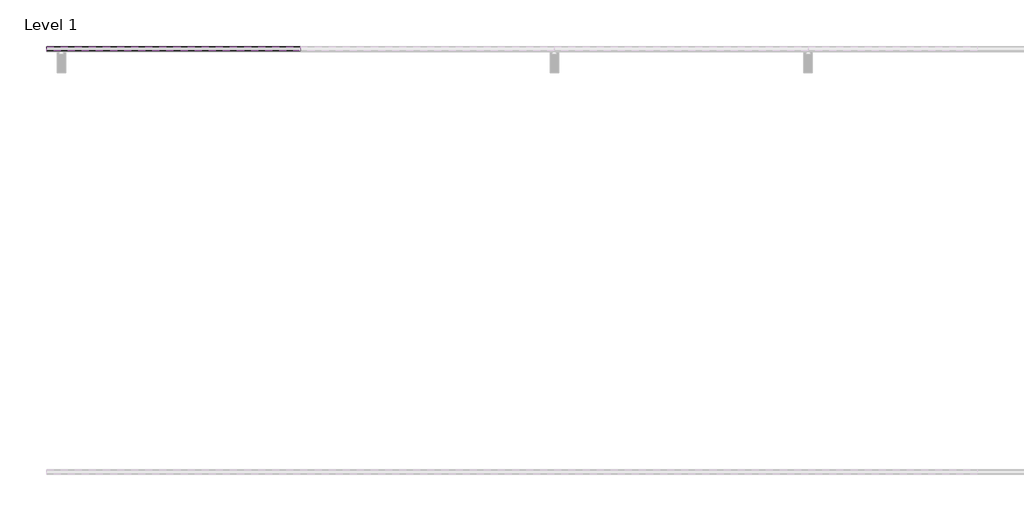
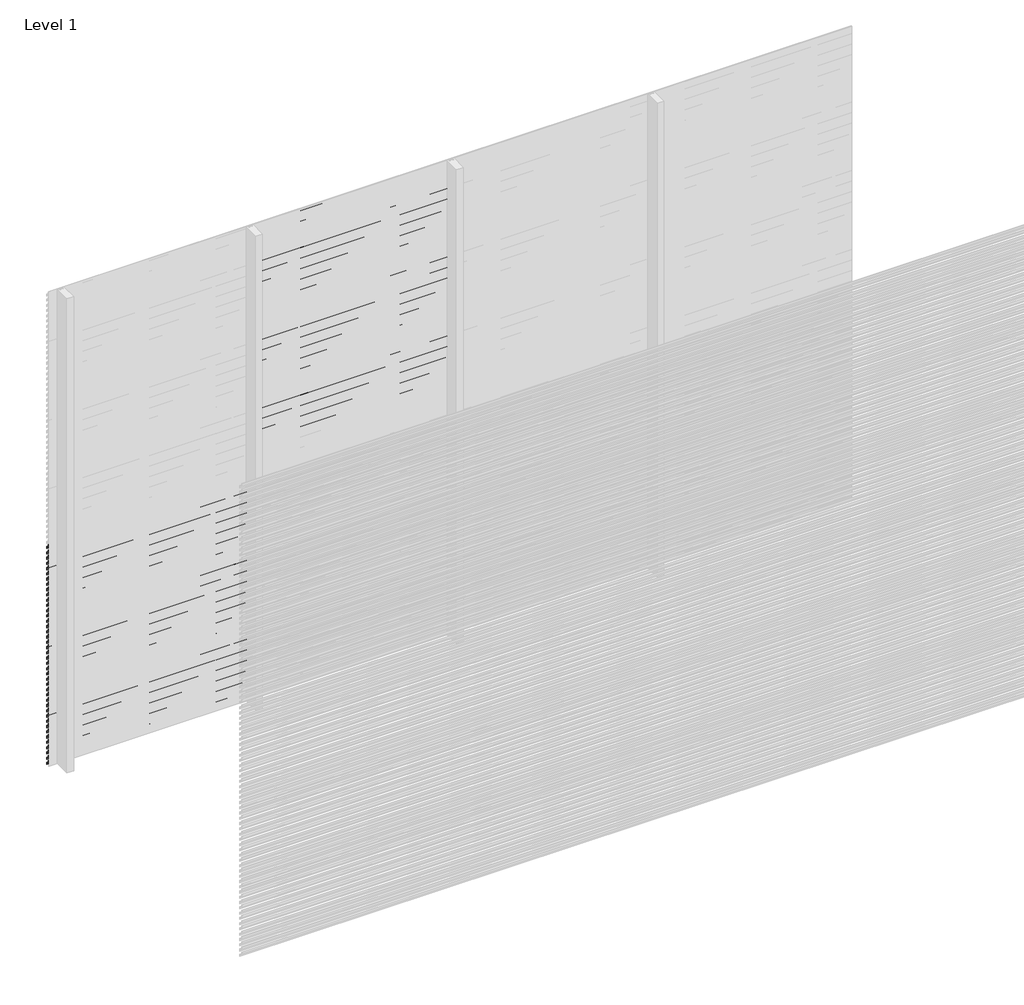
# One storey, part 36 of 507: 84 proxies.
"""IFC4 building model written with IfcOpenShell, lengths in millimetres."""

import ifcopenshell
import ifcopenshell.guid

model = None  # the IFC model being written
_history = None  # IfcOwnerHistory: only IFC2X3 demands one
_inside = {}  # id of a spatial element -> (the spatial element, [elements in it])
_under = {}  # id of a project, library or spatial element -> (it, [spatial elements below it])
_declared = {}  # id of a project -> (the project, [libraries it declares])
_typed = {}  # id of a type object -> (the type object, [elements of that type])
_made_of = {}  # id of a material, layer set ... -> (it, [elements and type objects made of it])


def new_model(schema):
    """Start an empty IFC model of exactly this schema.

    Asked for "IFC4X3", IfcOpenShell would pick the latest addendum, in which some entities
    have other attributes; the version numbers below select the first issue.
    IFC2X3 requires an IfcOwnerHistory on every rooted entity: one is made here for all.
    """
    global model, _history
    if schema == "IFC4X3":
        model = ifcopenshell.file(schema_version=(4, 3, 0, 0))
    else:
        model = ifcopenshell.file(schema=schema)
    _inside.clear()
    _under.clear()
    _declared.clear()
    _typed.clear()
    _made_of.clear()
    _history = None
    if model.schema == "IFC2X3":
        org = make("IfcOrganization", Name="unknown")
        user = make(
            "IfcPersonAndOrganization",
            ThePerson=make("IfcPerson", FamilyName="unknown"),
            TheOrganization=org,
        )
        app = make(
            "IfcApplication",
            ApplicationDeveloper=org,
            Version="unknown",
            ApplicationFullName="unknown",
            ApplicationIdentifier="unknown",
        )
        _history = make(
            "IfcOwnerHistory",
            OwningUser=user,
            OwningApplication=app,
            ChangeAction="ADDED",
            CreationDate=0,
        )
    return model


def make(cls, **values):
    """One entity of the class cls with the attributes given. An attribute that is None is left unset."""
    return model.create_entity(
        cls, **{name: value for name, value in values.items() if value is not None}
    )


def rooted(cls, **values):
    """An entity with a GlobalId (a new one), such as an element, a storey or a relation."""
    return make(cls, GlobalId=ifcopenshell.guid.new(), OwnerHistory=_history, **values)


def si_unit(unit_type, name, prefix=None):
    """IfcSIUnit, for example si_unit("LENGTHUNIT", "METRE", prefix="MILLI")."""
    return make("IfcSIUnit", UnitType=unit_type, Prefix=prefix, Name=name)


def assignment(units):
    """IfcUnitAssignment: the units of a project."""
    return None if units is None else make("IfcUnitAssignment", Units=units)


def point(xyz):
    """IfcCartesianPoint."""
    return None if xyz is None else make("IfcCartesianPoint", Coordinates=xyz)


def direction(xyz):
    """IfcDirection."""
    return None if xyz is None else make("IfcDirection", DirectionRatios=xyz)


def frame(location, z_axis=None, x_axis=None):
    """IfcAxis2Placement3D, a coordinate frame: its origin and axes. An axis left out is left unset."""
    return make(
        "IfcAxis2Placement3D",
        Location=point(location),
        Axis=direction(z_axis),
        RefDirection=direction(x_axis),
    )


def origin():
    """The frame at (0, 0, 0) with its axes left unset."""
    return frame((0.0, 0.0, 0.0))


def place(relative_to, where):
    """IfcLocalPlacement: puts the frame where relative to a parent placement (None: the world)."""
    return make(
        "IfcLocalPlacement", PlacementRelTo=relative_to, RelativePlacement=where
    )


def context(
    kind, dimensions, precision=None, world=None, true_north=None, identifier=None
):
    """IfcGeometricRepresentationContext, for example the 3D "Model" context."""
    return make(
        "IfcGeometricRepresentationContext",
        ContextIdentifier=identifier,
        ContextType=kind,
        CoordinateSpaceDimension=dimensions,
        Precision=precision,
        WorldCoordinateSystem=world,
        TrueNorth=true_north,
    )


def project(units=None, contexts=None):
    """IfcProject with its units and contexts."""
    return rooted(
        "IfcProject",
        Name="project",
        RepresentationContexts=contexts,
        UnitsInContext=assignment(units),
    )


def spatial(cls, under=None, at=None, **own):
    """A site, building, storey or space (cls), placed at a placement, below another one or the project."""
    s = rooted(cls, ObjectPlacement=at, **own)
    if under is not None:
        _under.setdefault(under.id(), (under, []))[1].append(s)
    return s


def polyline(points):
    """IfcPolyline through the points."""
    return make("IfcPolyline", Points=[point(p) for p in points])


def outline(outer, holes=None, kind="AREA"):
    """IfcArbitraryClosedProfileDef: a profile drawn as a closed curve; with holes, ...WithVoids."""
    if holes is None:
        return make("IfcArbitraryClosedProfileDef", ProfileType=kind, OuterCurve=outer)
    return make(
        "IfcArbitraryProfileDefWithVoids",
        ProfileType=kind,
        OuterCurve=outer,
        InnerCurves=holes,
    )


def extrude(swept, where, along, depth):
    """IfcExtrudedAreaSolid: the profile swept, set in the frame where, extruded along a direction by depth."""
    return make(
        "IfcExtrudedAreaSolid",
        SweptArea=swept,
        Position=where,
        ExtrudedDirection=direction(along),
        Depth=depth,
    )


def shape(context_of_items, identifier, shape_type, items):
    """IfcShapeRepresentation: the items that make up one representation, for example the "Body"."""
    return make(
        "IfcShapeRepresentation",
        ContextOfItems=context_of_items,
        RepresentationIdentifier=identifier,
        RepresentationType=shape_type,
        Items=items,
    )


def made_of(thing, what):
    """Note that an element or type object is made of a material, layer set ...; save() writes the relation."""
    if what is not None:
        _made_of.setdefault(what.id(), (what, []))[1].append(thing)
    return thing


def element(
    cls,
    number,
    at=None,
    inside=None,
    cuts=None,
    type_object=None,
    material=None,
    context=None,
    identifier="Body",
    shape_type=None,
    held_by="IfcProductDefinitionShape",
    body=None,
    shapes=None,
    **own,
):
    """One element of the class cls, such as IfcWall. Its Tag is "e" and its number.

    at: its placement. inside: the storey or other place that contains it. cuts: it is an
    opening in that element (IfcRelVoidsElement). A single representation is given by context,
    identifier, shape_type and body (its items); several are given by shapes. held_by: the class
    of the entity that holds the representations. save() writes the other relations.
    """
    e = rooted(cls, Tag="e%d" % number, ObjectPlacement=at, **own)
    if body is not None:
        shapes = [shape(context, identifier, shape_type, body)]
    if shapes is not None:
        e.Representation = make(held_by, Representations=shapes)
    if inside is not None:
        _inside.setdefault(inside.id(), (inside, []))[1].append(e)
    if cuts is not None:
        rooted(
            "IfcRelVoidsElement", RelatingBuildingElement=cuts, RelatedOpeningElement=e
        )
    if type_object is not None:
        _typed.setdefault(type_object.id(), (type_object, []))[1].append(e)
    return made_of(e, material)


def aggregate(whole, parts):
    """IfcRelAggregates: a whole, such as a stair, and the parts it consists of."""
    return rooted("IfcRelAggregates", RelatingObject=whole, RelatedObjects=parts)


def save(model, path):
    """Write the relations noted so far, then the file.

    IfcRelAggregates (storeys below a building ...), IfcRelContainedInSpatialStructure (elements
    in a storey), IfcRelDefinesByType, IfcRelAssociatesMaterial and IfcRelDeclares: one each for
    every whole, place, type object, material and project.
    """
    for whole, parts in _under.values():
        aggregate(whole, parts)
    for where, things in _inside.values():
        rooted(
            "IfcRelContainedInSpatialStructure",
            RelatedElements=things,
            RelatingStructure=where,
        )
    for kind, things in _typed.values():
        rooted("IfcRelDefinesByType", RelatedObjects=things, RelatingType=kind)
    for what, things in _made_of.values():
        rooted("IfcRelAssociatesMaterial", RelatedObjects=things, RelatingMaterial=what)
    for by, libraries in _declared.values():
        rooted("IfcRelDeclares", RelatingContext=by, RelatedDefinitions=libraries)
    model.write(path)


model = new_model("IFC4")

# Units and contexts
model_context = context("Model", 3, world=origin())
ifc_project = project(units=[si_unit("LENGTHUNIT", "METRE", prefix="MILLI")], contexts=[model_context])

# Site, building, storey
site = spatial("IfcSite", under=ifc_project)
building = spatial("IfcBuilding", under=site)
storey = spatial("IfcBuildingStorey", under=building, Name="Level 1", Elevation=0.0)

# Proxies
placement = place(None, origin())
element("IfcBuildingElementProxy", 1, Name="Wall Sweeps", at=placement, inside=storey, context=model_context, shape_type="SweptSolid", body=[
    extrude(outline(polyline([(29003.4540136, 1374.6), (29003.4540136, 1361.1), (29002.2040136, 1361.8216933), (29002.2040136, 1373.8782281), (28983.0540136, 1384.9345698), (28983.0540136, 1398.6), (28984.3040136, 1398.6), (28984.3040136, 1385.6562577), (29003.4540136, 1374.6)])), frame((44966.6208097, 0.0, 0.0), z_axis=(1.0, 0.0, 0.0), x_axis=(0.0, 1.0, 0.0)), (0.0, 0.0, 1.0), 1200.0000002),
])
element("IfcBuildingElementProxy", 2, Name="Wall Sweeps", at=placement, inside=storey, context=model_context, shape_type="SweptSolid", body=[
    extrude(outline(polyline([(29003.4540136, 1341.3), (29003.4540136, 1327.8), (29002.2040136, 1328.5216933), (29002.2040136, 1340.5782281), (28983.0540136, 1351.6345698), (28983.0540136, 1365.3), (28984.3040136, 1365.3), (28984.3040136, 1352.3562577), (29003.4540136, 1341.3)])), frame((44966.6208097, 0.0, 0.0), z_axis=(1.0, 0.0, 0.0), x_axis=(0.0, 1.0, 0.0)), (0.0, 0.0, 1.0), 1200.0000002),
])
element("IfcBuildingElementProxy", 3, Name="Wall Sweeps", at=placement, inside=storey, context=model_context, shape_type="SweptSolid", body=[
    extrude(outline(polyline([(29003.4540136, 1308.0), (29003.4540136, 1294.5), (29002.2040136, 1295.2216933), (29002.2040136, 1307.2782281), (28983.0540136, 1318.3345698), (28983.0540136, 1332.0), (28984.3040136, 1332.0), (28984.3040136, 1319.0562577), (29003.4540136, 1308.0)])), frame((44966.6208097, 0.0, 0.0), z_axis=(1.0, 0.0, 0.0), x_axis=(0.0, 1.0, 0.0)), (0.0, 0.0, 1.0), 1200.0000002),
])
element("IfcBuildingElementProxy", 4, Name="Wall Sweeps", at=placement, inside=storey, context=model_context, shape_type="SweptSolid", body=[
    extrude(outline(polyline([(29003.4540136, 1274.7), (29003.4540136, 1261.2), (29002.2040136, 1261.9216933), (29002.2040136, 1273.9782281), (28983.0540136, 1285.0345698), (28983.0540136, 1298.7), (28984.3040136, 1298.7), (28984.3040136, 1285.7562577), (29003.4540136, 1274.7)])), frame((44966.6208097, 0.0, 0.0), z_axis=(1.0, 0.0, 0.0), x_axis=(0.0, 1.0, 0.0)), (0.0, 0.0, 1.0), 1200.0000002),
])
element("IfcBuildingElementProxy", 5, Name="Wall Sweeps", at=placement, inside=storey, context=model_context, shape_type="SweptSolid", body=[
    extrude(outline(polyline([(29003.4540136, 1241.4), (29003.4540136, 1227.9), (29002.2040136, 1228.6216933), (29002.2040136, 1240.6782281), (28983.0540136, 1251.7345698), (28983.0540136, 1265.4), (28984.3040136, 1265.4), (28984.3040136, 1252.4562577), (29003.4540136, 1241.4)])), frame((44966.6208097, 0.0, 0.0), z_axis=(1.0, 0.0, 0.0), x_axis=(0.0, 1.0, 0.0)), (0.0, 0.0, 1.0), 1200.0000002),
])
element("IfcBuildingElementProxy", 6, Name="Wall Sweeps", at=placement, inside=storey, context=model_context, shape_type="SweptSolid", body=[
    extrude(outline(polyline([(29003.4540136, 1208.1), (29003.4540136, 1194.6), (29002.2040136, 1195.3216933), (29002.2040136, 1207.3782281), (28983.0540136, 1218.4345698), (28983.0540136, 1232.1), (28984.3040136, 1232.1), (28984.3040136, 1219.1562577), (29003.4540136, 1208.1)])), frame((44966.6208097, 0.0, 0.0), z_axis=(1.0, 0.0, 0.0), x_axis=(0.0, 1.0, 0.0)), (0.0, 0.0, 1.0), 1200.0000002),
])
element("IfcBuildingElementProxy", 7, Name="Wall Sweeps", at=placement, inside=storey, context=model_context, shape_type="SweptSolid", body=[
    extrude(outline(polyline([(29003.4540136, 1174.8), (29003.4540136, 1161.3), (29002.2040136, 1162.0216933), (29002.2040136, 1174.0782281), (28983.0540136, 1185.1345698), (28983.0540136, 1198.8), (28984.3040136, 1198.8), (28984.3040136, 1185.8562577), (29003.4540136, 1174.8)])), frame((44966.6208097, 0.0, 0.0), z_axis=(1.0, 0.0, 0.0), x_axis=(0.0, 1.0, 0.0)), (0.0, 0.0, 1.0), 1200.0000002),
])
element("IfcBuildingElementProxy", 8, Name="Wall Sweeps", at=placement, inside=storey, context=model_context, shape_type="SweptSolid", body=[
    extrude(outline(polyline([(29003.4540136, 1141.5), (29003.4540136, 1128.0), (29002.2040136, 1128.7216933), (29002.2040136, 1140.7782281), (28983.0540136, 1151.8345698), (28983.0540136, 1165.5), (28984.3040136, 1165.5), (28984.3040136, 1152.5562577), (29003.4540136, 1141.5)])), frame((44966.6208097, 0.0, 0.0), z_axis=(1.0, 0.0, 0.0), x_axis=(0.0, 1.0, 0.0)), (0.0, 0.0, 1.0), 1200.0000002),
])
element("IfcBuildingElementProxy", 9, Name="Wall Sweeps", at=placement, inside=storey, context=model_context, shape_type="SweptSolid", body=[
    extrude(outline(polyline([(29003.4540136, 1108.2), (29003.4540136, 1094.7), (29002.2040136, 1095.4216933), (29002.2040136, 1107.4782281), (28983.0540136, 1118.5345698), (28983.0540136, 1132.2), (28984.3040136, 1132.2), (28984.3040136, 1119.2562577), (29003.4540136, 1108.2)])), frame((44966.6208097, 0.0, 0.0), z_axis=(1.0, 0.0, 0.0), x_axis=(0.0, 1.0, 0.0)), (0.0, 0.0, 1.0), 1200.0000002),
])
element("IfcBuildingElementProxy", 10, Name="Wall Sweeps", at=placement, inside=storey, context=model_context, shape_type="SweptSolid", body=[
    extrude(outline(polyline([(29003.4540136, 1074.9), (29003.4540136, 1061.4), (29002.2040136, 1062.1216933), (29002.2040136, 1074.1782281), (28983.0540136, 1085.2345698), (28983.0540136, 1098.9), (28984.3040136, 1098.9), (28984.3040136, 1085.9562577), (29003.4540136, 1074.9)])), frame((44966.6208097, 0.0, 0.0), z_axis=(1.0, 0.0, 0.0), x_axis=(0.0, 1.0, 0.0)), (0.0, 0.0, 1.0), 1200.0000002),
])
element("IfcBuildingElementProxy", 11, Name="Wall Sweeps", at=placement, inside=storey, context=model_context, shape_type="SweptSolid", body=[
    extrude(outline(polyline([(29003.4540136, 1041.6), (29003.4540136, 1028.1), (29002.2040136, 1028.8216933), (29002.2040136, 1040.8782281), (28983.0540136, 1051.9345698), (28983.0540136, 1065.6), (28984.3040136, 1065.6), (28984.3040136, 1052.6562577), (29003.4540136, 1041.6)])), frame((44966.6208097, 0.0, 0.0), z_axis=(1.0, 0.0, 0.0), x_axis=(0.0, 1.0, 0.0)), (0.0, 0.0, 1.0), 1200.0000002),
])
element("IfcBuildingElementProxy", 12, Name="Wall Sweeps", at=placement, inside=storey, context=model_context, shape_type="SweptSolid", body=[
    extrude(outline(polyline([(29003.4540136, 1008.3), (29003.4540136, 994.8), (29002.2040136, 995.5216933), (29002.2040136, 1007.5782281), (28983.0540136, 1018.6345698), (28983.0540136, 1032.3), (28984.3040136, 1032.3), (28984.3040136, 1019.3562577), (29003.4540136, 1008.3)])), frame((44966.6208097, 0.0, 0.0), z_axis=(1.0, 0.0, 0.0), x_axis=(0.0, 1.0, 0.0)), (0.0, 0.0, 1.0), 1200.0000002),
])
element("IfcBuildingElementProxy", 13, Name="Wall Sweeps", at=placement, inside=storey, context=model_context, shape_type="SweptSolid", body=[
    extrude(outline(polyline([(29003.4540136, 975.0), (29003.4540136, 961.5), (29002.2040136, 962.2216933), (29002.2040136, 974.2782281), (28983.0540136, 985.3345698), (28983.0540136, 999.0), (28984.3040136, 999.0), (28984.3040136, 986.0562577), (29003.4540136, 975.0)])), frame((44966.6208097, 0.0, 0.0), z_axis=(1.0, 0.0, 0.0), x_axis=(0.0, 1.0, 0.0)), (0.0, 0.0, 1.0), 1200.0000002),
])
element("IfcBuildingElementProxy", 14, Name="Wall Sweeps", at=placement, inside=storey, context=model_context, shape_type="SweptSolid", body=[
    extrude(outline(polyline([(29003.4540136, 941.7), (29003.4540136, 928.2), (29002.2040136, 928.9216933), (29002.2040136, 940.9782281), (28983.0540136, 952.0345698), (28983.0540136, 965.7), (28984.3040136, 965.7), (28984.3040136, 952.7562577), (29003.4540136, 941.7)])), frame((44966.6208097, 0.0, 0.0), z_axis=(1.0, 0.0, 0.0), x_axis=(0.0, 1.0, 0.0)), (0.0, 0.0, 1.0), 1200.0000002),
])
element("IfcBuildingElementProxy", 15, Name="Wall Sweeps", at=placement, inside=storey, context=model_context, shape_type="SweptSolid", body=[
    extrude(outline(polyline([(29003.4540136, 908.4), (29003.4540136, 894.9), (29002.2040136, 895.6216933), (29002.2040136, 907.6782281), (28983.0540136, 918.7345698), (28983.0540136, 932.4), (28984.3040136, 932.4), (28984.3040136, 919.4562577), (29003.4540136, 908.4)])), frame((44966.6208097, 0.0, 0.0), z_axis=(1.0, 0.0, 0.0), x_axis=(0.0, 1.0, 0.0)), (0.0, 0.0, 1.0), 1200.0000002),
])
element("IfcBuildingElementProxy", 16, Name="Wall Sweeps", at=placement, inside=storey, context=model_context, shape_type="SweptSolid", body=[
    extrude(outline(polyline([(29003.4540136, 875.1), (29003.4540136, 861.6), (29002.2040136, 862.3216933), (29002.2040136, 874.3782281), (28983.0540136, 885.4345698), (28983.0540136, 899.1), (28984.3040136, 899.1), (28984.3040136, 886.1562577), (29003.4540136, 875.1)])), frame((44966.6208097, 0.0, 0.0), z_axis=(1.0, 0.0, 0.0), x_axis=(0.0, 1.0, 0.0)), (0.0, 0.0, 1.0), 1200.0000002),
])
element("IfcBuildingElementProxy", 17, Name="Wall Sweeps", at=placement, inside=storey, context=model_context, shape_type="SweptSolid", body=[
    extrude(outline(polyline([(29003.4540136, 841.8), (29003.4540136, 828.3), (29002.2040136, 829.0216933), (29002.2040136, 841.0782281), (28983.0540136, 852.1345698), (28983.0540136, 865.8), (28984.3040136, 865.8), (28984.3040136, 852.8562577), (29003.4540136, 841.8)])), frame((44966.6208097, 0.0, 0.0), z_axis=(1.0, 0.0, 0.0), x_axis=(0.0, 1.0, 0.0)), (0.0, 0.0, 1.0), 1200.0000002),
])
element("IfcBuildingElementProxy", 18, Name="Wall Sweeps", at=placement, inside=storey, context=model_context, shape_type="SweptSolid", body=[
    extrude(outline(polyline([(29003.4540136, 808.5), (29003.4540136, 795.0), (29002.2040136, 795.7216933), (29002.2040136, 807.7782281), (28983.0540136, 818.8345698), (28983.0540136, 832.5), (28984.3040136, 832.5), (28984.3040136, 819.5562577), (29003.4540136, 808.5)])), frame((44966.6208097, 0.0, 0.0), z_axis=(1.0, 0.0, 0.0), x_axis=(0.0, 1.0, 0.0)), (0.0, 0.0, 1.0), 1200.0000002),
])
element("IfcBuildingElementProxy", 19, Name="Wall Sweeps", at=placement, inside=storey, context=model_context, shape_type="SweptSolid", body=[
    extrude(outline(polyline([(29003.4540136, 775.2), (29003.4540136, 761.7), (29002.2040136, 762.4216933), (29002.2040136, 774.4782281), (28983.0540136, 785.5345698), (28983.0540136, 799.2), (28984.3040136, 799.2), (28984.3040136, 786.2562577), (29003.4540136, 775.2)])), frame((44966.6208097, 0.0, 0.0), z_axis=(1.0, 0.0, 0.0), x_axis=(0.0, 1.0, 0.0)), (0.0, 0.0, 1.0), 1200.0000002),
])
element("IfcBuildingElementProxy", 20, Name="Wall Sweeps", at=placement, inside=storey, context=model_context, shape_type="SweptSolid", body=[
    extrude(outline(polyline([(29003.4540136, 741.9), (29003.4540136, 728.4), (29002.2040136, 729.1216933), (29002.2040136, 741.1782281), (28983.0540136, 752.2345698), (28983.0540136, 765.9), (28984.3040136, 765.9), (28984.3040136, 752.9562577), (29003.4540136, 741.9)])), frame((44966.6208097, 0.0, 0.0), z_axis=(1.0, 0.0, 0.0), x_axis=(0.0, 1.0, 0.0)), (0.0, 0.0, 1.0), 1200.0000002),
])
element("IfcBuildingElementProxy", 21, Name="Wall Sweeps", at=placement, inside=storey, context=model_context, shape_type="SweptSolid", body=[
    extrude(outline(polyline([(29003.4540136, 708.6), (29003.4540136, 695.1), (29002.2040136, 695.8216933), (29002.2040136, 707.8782281), (28983.0540136, 718.9345698), (28983.0540136, 732.6), (28984.3040136, 732.6), (28984.3040136, 719.6562577), (29003.4540136, 708.6)])), frame((44966.6208097, 0.0, 0.0), z_axis=(1.0, 0.0, 0.0), x_axis=(0.0, 1.0, 0.0)), (0.0, 0.0, 1.0), 1200.0000002),
])
element("IfcBuildingElementProxy", 22, Name="Wall Sweeps", at=placement, inside=storey, context=model_context, shape_type="SweptSolid", body=[
    extrude(outline(polyline([(29003.4540136, 675.3), (29003.4540136, 661.8), (29002.2040136, 662.5216933), (29002.2040136, 674.5782281), (28983.0540136, 685.6345698), (28983.0540136, 699.3), (28984.3040136, 699.3), (28984.3040136, 686.3562577), (29003.4540136, 675.3)])), frame((44966.6208097, 0.0, 0.0), z_axis=(1.0, 0.0, 0.0), x_axis=(0.0, 1.0, 0.0)), (0.0, 0.0, 1.0), 1200.0000002),
])
element("IfcBuildingElementProxy", 23, Name="Wall Sweeps", at=placement, inside=storey, context=model_context, shape_type="SweptSolid", body=[
    extrude(outline(polyline([(29003.4540136, 642.0), (29003.4540136, 628.5), (29002.2040136, 629.2216933), (29002.2040136, 641.2782281), (28983.0540136, 652.3345698), (28983.0540136, 666.0), (28984.3040136, 666.0), (28984.3040136, 653.0562577), (29003.4540136, 642.0)])), frame((44966.6208097, 0.0, 0.0), z_axis=(1.0, 0.0, 0.0), x_axis=(0.0, 1.0, 0.0)), (0.0, 0.0, 1.0), 1200.0000002),
])
element("IfcBuildingElementProxy", 24, Name="Wall Sweeps", at=placement, inside=storey, context=model_context, shape_type="SweptSolid", body=[
    extrude(outline(polyline([(29003.4540136, 608.7), (29003.4540136, 595.2), (29002.2040136, 595.9216933), (29002.2040136, 607.9782281), (28983.0540136, 619.0345698), (28983.0540136, 632.7), (28984.3040136, 632.7), (28984.3040136, 619.7562577), (29003.4540136, 608.7)])), frame((44966.6208097, 0.0, 0.0), z_axis=(1.0, 0.0, 0.0), x_axis=(0.0, 1.0, 0.0)), (0.0, 0.0, 1.0), 1200.0000002),
])
element("IfcBuildingElementProxy", 25, Name="Wall Sweeps", at=placement, inside=storey, context=model_context, shape_type="SweptSolid", body=[
    extrude(outline(polyline([(29003.4540136, 575.4), (29003.4540136, 561.9), (29002.2040136, 562.6216933), (29002.2040136, 574.6782281), (28983.0540136, 585.7345698), (28983.0540136, 599.4), (28984.3040136, 599.4), (28984.3040136, 586.4562577), (29003.4540136, 575.4)])), frame((44966.6208097, 0.0, 0.0), z_axis=(1.0, 0.0, 0.0), x_axis=(0.0, 1.0, 0.0)), (0.0, 0.0, 1.0), 1200.0000002),
])
element("IfcBuildingElementProxy", 26, Name="Wall Sweeps", at=placement, inside=storey, context=model_context, shape_type="SweptSolid", body=[
    extrude(outline(polyline([(29003.4540136, 542.1), (29003.4540136, 528.6), (29002.2040136, 529.3216933), (29002.2040136, 541.3782281), (28983.0540136, 552.4345698), (28983.0540136, 566.1), (28984.3040136, 566.1), (28984.3040136, 553.1562577), (29003.4540136, 542.1)])), frame((44966.6208097, 0.0, 0.0), z_axis=(1.0, 0.0, 0.0), x_axis=(0.0, 1.0, 0.0)), (0.0, 0.0, 1.0), 1200.0000002),
])
element("IfcBuildingElementProxy", 27, Name="Wall Sweeps", at=placement, inside=storey, context=model_context, shape_type="SweptSolid", body=[
    extrude(outline(polyline([(29003.4540136, 508.8), (29003.4540136, 495.3), (29002.2040136, 496.0216933), (29002.2040136, 508.0782281), (28983.0540136, 519.1345698), (28983.0540136, 532.8), (28984.3040136, 532.8), (28984.3040136, 519.8562577), (29003.4540136, 508.8)])), frame((44966.6208097, 0.0, 0.0), z_axis=(1.0, 0.0, 0.0), x_axis=(0.0, 1.0, 0.0)), (0.0, 0.0, 1.0), 1200.0000002),
])
element("IfcBuildingElementProxy", 28, Name="Wall Sweeps", at=placement, inside=storey, context=model_context, shape_type="SweptSolid", body=[
    extrude(outline(polyline([(29003.4540136, 475.5), (29003.4540136, 462.0), (29002.2040136, 462.7216933), (29002.2040136, 474.7782281), (28983.0540136, 485.8345698), (28983.0540136, 499.5), (28984.3040136, 499.5), (28984.3040136, 486.5562577), (29003.4540136, 475.5)])), frame((44966.6208097, 0.0, 0.0), z_axis=(1.0, 0.0, 0.0), x_axis=(0.0, 1.0, 0.0)), (0.0, 0.0, 1.0), 1200.0000002),
])
element("IfcBuildingElementProxy", 29, Name="Wall Sweeps", at=placement, inside=storey, context=model_context, shape_type="SweptSolid", body=[
    extrude(outline(polyline([(29003.4540136, 442.2), (29003.4540136, 428.7), (29002.2040136, 429.4216933), (29002.2040136, 441.4782281), (28983.0540136, 452.5345698), (28983.0540136, 466.2), (28984.3040136, 466.2), (28984.3040136, 453.2562577), (29003.4540136, 442.2)])), frame((44966.6208097, 0.0, 0.0), z_axis=(1.0, 0.0, 0.0), x_axis=(0.0, 1.0, 0.0)), (0.0, 0.0, 1.0), 1200.0000002),
])
element("IfcBuildingElementProxy", 30, Name="Wall Sweeps", at=placement, inside=storey, context=model_context, shape_type="SweptSolid", body=[
    extrude(outline(polyline([(29003.4540136, 408.9), (29003.4540136, 395.4), (29002.2040136, 396.1216933), (29002.2040136, 408.1782281), (28983.0540136, 419.2345698), (28983.0540136, 432.9), (28984.3040136, 432.9), (28984.3040136, 419.9562577), (29003.4540136, 408.9)])), frame((44966.6208097, 0.0, 0.0), z_axis=(1.0, 0.0, 0.0), x_axis=(0.0, 1.0, 0.0)), (0.0, 0.0, 1.0), 1200.0000002),
])
element("IfcBuildingElementProxy", 31, Name="Wall Sweeps", at=placement, inside=storey, context=model_context, shape_type="SweptSolid", body=[
    extrude(outline(polyline([(29003.4540136, 375.6), (29003.4540136, 362.1), (29002.2040136, 362.8216933), (29002.2040136, 374.8782281), (28983.0540136, 385.9345698), (28983.0540136, 399.6), (28984.3040136, 399.6), (28984.3040136, 386.6562577), (29003.4540136, 375.6)])), frame((44966.6208097, 0.0, 0.0), z_axis=(1.0, 0.0, 0.0), x_axis=(0.0, 1.0, 0.0)), (0.0, 0.0, 1.0), 1200.0000002),
])
element("IfcBuildingElementProxy", 32, Name="Wall Sweeps", at=placement, inside=storey, context=model_context, shape_type="SweptSolid", body=[
    extrude(outline(polyline([(29003.4540136, 342.3), (29003.4540136, 328.8), (29002.2040136, 329.5216933), (29002.2040136, 341.5782281), (28983.0540136, 352.6345698), (28983.0540136, 366.3), (28984.3040136, 366.3), (28984.3040136, 353.3562577), (29003.4540136, 342.3)])), frame((44966.6208097, 0.0, 0.0), z_axis=(1.0, 0.0, 0.0), x_axis=(0.0, 1.0, 0.0)), (0.0, 0.0, 1.0), 1200.0000002),
])
element("IfcBuildingElementProxy", 33, Name="Wall Sweeps", at=placement, inside=storey, context=model_context, shape_type="SweptSolid", body=[
    extrude(outline(polyline([(29003.4540136, 309.0), (29003.4540136, 295.5), (29002.2040136, 296.2216933), (29002.2040136, 308.2782281), (28983.0540136, 319.3345698), (28983.0540136, 333.0), (28984.3040136, 333.0), (28984.3040136, 320.0562577), (29003.4540136, 309.0)])), frame((44966.6208097, 0.0, 0.0), z_axis=(1.0, 0.0, 0.0), x_axis=(0.0, 1.0, 0.0)), (0.0, 0.0, 1.0), 1200.0000002),
])
element("IfcBuildingElementProxy", 34, Name="Wall Sweeps", at=placement, inside=storey, context=model_context, shape_type="SweptSolid", body=[
    extrude(outline(polyline([(29003.4540136, 275.7), (29003.4540136, 262.2), (29002.2040136, 262.9216933), (29002.2040136, 274.9782281), (28983.0540136, 286.0345698), (28983.0540136, 299.7), (28984.3040136, 299.7), (28984.3040136, 286.7562577), (29003.4540136, 275.7)])), frame((44966.6208097, 0.0, 0.0), z_axis=(1.0, 0.0, 0.0), x_axis=(0.0, 1.0, 0.0)), (0.0, 0.0, 1.0), 1200.0000002),
])
element("IfcBuildingElementProxy", 35, Name="Wall Sweeps", at=placement, inside=storey, context=model_context, shape_type="SweptSolid", body=[
    extrude(outline(polyline([(29003.4540136, 242.4), (29003.4540136, 228.9), (29002.2040136, 229.6216933), (29002.2040136, 241.6782281), (28983.0540136, 252.7345698), (28983.0540136, 266.4), (28984.3040136, 266.4), (28984.3040136, 253.4562577), (29003.4540136, 242.4)])), frame((44966.6208097, 0.0, 0.0), z_axis=(1.0, 0.0, 0.0), x_axis=(0.0, 1.0, 0.0)), (0.0, 0.0, 1.0), 1200.0000002),
])
element("IfcBuildingElementProxy", 36, Name="Wall Sweeps", at=placement, inside=storey, context=model_context, shape_type="SweptSolid", body=[
    extrude(outline(polyline([(29003.4540136, 209.1), (29003.4540136, 195.6), (29002.2040136, 196.3216933), (29002.2040136, 208.3782281), (28983.0540136, 219.4345698), (28983.0540136, 233.1), (28984.3040136, 233.1), (28984.3040136, 220.1562577), (29003.4540136, 209.1)])), frame((44966.6208097, 0.0, 0.0), z_axis=(1.0, 0.0, 0.0), x_axis=(0.0, 1.0, 0.0)), (0.0, 0.0, 1.0), 1200.0000002),
])
element("IfcBuildingElementProxy", 37, Name="Wall Sweeps", at=placement, inside=storey, context=model_context, shape_type="SweptSolid", body=[
    extrude(outline(polyline([(29003.4540136, 175.8), (29003.4540136, 162.3), (29002.2040136, 163.0216933), (29002.2040136, 175.0782281), (28983.0540136, 186.1345698), (28983.0540136, 199.8), (28984.3040136, 199.8), (28984.3040136, 186.8562577), (29003.4540136, 175.8)])), frame((44966.6208097, 0.0, 0.0), z_axis=(1.0, 0.0, 0.0), x_axis=(0.0, 1.0, 0.0)), (0.0, 0.0, 1.0), 1200.0000002),
])
element("IfcBuildingElementProxy", 38, Name="Wall Sweeps", at=placement, inside=storey, context=model_context, shape_type="SweptSolid", body=[
    extrude(outline(polyline([(29003.4540136, 142.5), (29003.4540136, 129.0), (29002.2040136, 129.7216933), (29002.2040136, 141.7782281), (28983.0540136, 152.8345698), (28983.0540136, 166.5), (28984.3040136, 166.5), (28984.3040136, 153.5562577), (29003.4540136, 142.5)])), frame((44966.6208097, 0.0, 0.0), z_axis=(1.0, 0.0, 0.0), x_axis=(0.0, 1.0, 0.0)), (0.0, 0.0, 1.0), 1200.0000002),
])
element("IfcBuildingElementProxy", 39, Name="Wall Sweeps", at=placement, inside=storey, context=model_context, shape_type="SweptSolid", body=[
    extrude(outline(polyline([(29003.4540136, 109.2), (29003.4540136, 95.7), (29002.2040136, 96.4216933), (29002.2040136, 108.4782281), (28983.0540136, 119.5345698), (28983.0540136, 133.2), (28984.3040136, 133.2), (28984.3040136, 120.2562577), (29003.4540136, 109.2)])), frame((44966.6208097, 0.0, 0.0), z_axis=(1.0, 0.0, 0.0), x_axis=(0.0, 1.0, 0.0)), (0.0, 0.0, 1.0), 1200.0000002),
])
element("IfcBuildingElementProxy", 40, Name="Wall Sweeps", at=placement, inside=storey, context=model_context, shape_type="SweptSolid", body=[
    extrude(outline(polyline([(29003.4540136, 75.9), (29003.4540136, 62.4), (29002.2040136, 63.1216933), (29002.2040136, 75.1782281), (28983.0540136, 86.2345698), (28983.0540136, 99.9), (28984.3040136, 99.9), (28984.3040136, 86.9562577), (29003.4540136, 75.9)])), frame((44966.6208097, 0.0, 0.0), z_axis=(1.0, 0.0, 0.0), x_axis=(0.0, 1.0, 0.0)), (0.0, 0.0, 1.0), 1200.0000002),
])
element("IfcBuildingElementProxy", 41, Name="Wall Sweeps", at=placement, inside=storey, context=model_context, shape_type="SweptSolid", body=[
    extrude(outline(polyline([(29003.4540136, 42.6), (29003.4540136, 29.1), (29002.2040136, 29.8216933), (29002.2040136, 41.8782281), (28983.0540136, 52.9345698), (28983.0540136, 66.6), (28984.3040136, 66.6), (28984.3040136, 53.6562577), (29003.4540136, 42.6)])), frame((44966.6208097, 0.0, 0.0), z_axis=(1.0, 0.0, 0.0), x_axis=(0.0, 1.0, 0.0)), (0.0, 0.0, 1.0), 1200.0000002),
])
element("IfcBuildingElementProxy", 42, Name="Wall Sweeps", at=placement, inside=storey, context=model_context, shape_type="SweptSolid", body=[
    extrude(outline(polyline([(29003.4540136, 9.3), (29003.4540136, -4.2), (29002.2040136, -3.4783067), (29002.2040136, 8.5782281), (28983.0540136, 19.6345698), (28983.0540136, 33.3), (28984.3040136, 33.3), (28984.3040136, 20.3562577), (29003.4540136, 9.3)])), frame((44966.6208097, 0.0, 0.0), z_axis=(1.0, 0.0, 0.0), x_axis=(0.0, 1.0, 0.0)), (0.0, 0.0, 1.0), 1200.0000002),
])
element("IfcBuildingElementProxy", 43, Name="Wall Sweeps", at=placement, inside=storey, context=model_context, shape_type="SweptSolid", body=[
    extrude(outline(polyline([(29003.4540136, 2973.0), (29003.4540136, 2959.5), (29002.2040136, 2960.2216933), (29002.2040136, 2972.2782281), (28983.0540136, 2983.3345698), (28983.0540136, 2997.0), (28984.3040136, 2997.0), (28984.3040136, 2984.0562577), (29003.4540136, 2973.0)])), frame((46166.6208099, 0.0, 0.0), z_axis=(1.0, 0.0, 0.0), x_axis=(0.0, 1.0, 0.0)), (0.0, 0.0, 1.0), 1199.9999999),
])
element("IfcBuildingElementProxy", 44, Name="Wall Sweeps", at=placement, inside=storey, context=model_context, shape_type="SweptSolid", body=[
    extrude(outline(polyline([(29003.4540136, 2939.7), (29003.4540136, 2926.2), (29002.2040136, 2926.9216933), (29002.2040136, 2938.9782281), (28983.0540136, 2950.0345698), (28983.0540136, 2963.7), (28984.3040136, 2963.7), (28984.3040136, 2950.7562577), (29003.4540136, 2939.7)])), frame((46166.6208099, 0.0, 0.0), z_axis=(1.0, 0.0, 0.0), x_axis=(0.0, 1.0, 0.0)), (0.0, 0.0, 1.0), 1199.9999999),
])
element("IfcBuildingElementProxy", 45, Name="Wall Sweeps", at=placement, inside=storey, context=model_context, shape_type="SweptSolid", body=[
    extrude(outline(polyline([(29003.4540136, 2906.4), (29003.4540136, 2892.9), (29002.2040136, 2893.6216933), (29002.2040136, 2905.6782281), (28983.0540136, 2916.7345698), (28983.0540136, 2930.4), (28984.3040136, 2930.4), (28984.3040136, 2917.4562577), (29003.4540136, 2906.4)])), frame((46166.6208099, 0.0, 0.0), z_axis=(1.0, 0.0, 0.0), x_axis=(0.0, 1.0, 0.0)), (0.0, 0.0, 1.0), 1199.9999999),
])
element("IfcBuildingElementProxy", 46, Name="Wall Sweeps", at=placement, inside=storey, context=model_context, shape_type="SweptSolid", body=[
    extrude(outline(polyline([(29003.4540136, 2873.1), (29003.4540136, 2859.6), (29002.2040136, 2860.3216933), (29002.2040136, 2872.3782281), (28983.0540136, 2883.4345698), (28983.0540136, 2897.1), (28984.3040136, 2897.1), (28984.3040136, 2884.1562577), (29003.4540136, 2873.1)])), frame((46166.6208099, 0.0, 0.0), z_axis=(1.0, 0.0, 0.0), x_axis=(0.0, 1.0, 0.0)), (0.0, 0.0, 1.0), 1199.9999999),
])
element("IfcBuildingElementProxy", 47, Name="Wall Sweeps", at=placement, inside=storey, context=model_context, shape_type="SweptSolid", body=[
    extrude(outline(polyline([(29003.4540136, 2839.8), (29003.4540136, 2826.3), (29002.2040136, 2827.0216933), (29002.2040136, 2839.0782281), (28983.0540136, 2850.1345698), (28983.0540136, 2863.8), (28984.3040136, 2863.8), (28984.3040136, 2850.8562577), (29003.4540136, 2839.8)])), frame((46166.6208099, 0.0, 0.0), z_axis=(1.0, 0.0, 0.0), x_axis=(0.0, 1.0, 0.0)), (0.0, 0.0, 1.0), 1199.9999999),
])
element("IfcBuildingElementProxy", 48, Name="Wall Sweeps", at=placement, inside=storey, context=model_context, shape_type="SweptSolid", body=[
    extrude(outline(polyline([(29003.4540136, 2806.5), (29003.4540136, 2793.0), (29002.2040136, 2793.7216933), (29002.2040136, 2805.7782281), (28983.0540136, 2816.8345698), (28983.0540136, 2830.5), (28984.3040136, 2830.5), (28984.3040136, 2817.5562577), (29003.4540136, 2806.5)])), frame((46166.6208099, 0.0, 0.0), z_axis=(1.0, 0.0, 0.0), x_axis=(0.0, 1.0, 0.0)), (0.0, 0.0, 1.0), 1199.9999999),
])
element("IfcBuildingElementProxy", 49, Name="Wall Sweeps", at=placement, inside=storey, context=model_context, shape_type="SweptSolid", body=[
    extrude(outline(polyline([(29003.4540136, 2773.2), (29003.4540136, 2759.7), (29002.2040136, 2760.4216933), (29002.2040136, 2772.4782281), (28983.0540136, 2783.5345698), (28983.0540136, 2797.2), (28984.3040136, 2797.2), (28984.3040136, 2784.2562577), (29003.4540136, 2773.2)])), frame((46166.6208099, 0.0, 0.0), z_axis=(1.0, 0.0, 0.0), x_axis=(0.0, 1.0, 0.0)), (0.0, 0.0, 1.0), 1199.9999999),
])
element("IfcBuildingElementProxy", 50, Name="Wall Sweeps", at=placement, inside=storey, context=model_context, shape_type="SweptSolid", body=[
    extrude(outline(polyline([(29003.4540136, 2739.9), (29003.4540136, 2726.4), (29002.2040136, 2727.1216933), (29002.2040136, 2739.1782281), (28983.0540136, 2750.2345698), (28983.0540136, 2763.9), (28984.3040136, 2763.9), (28984.3040136, 2750.9562577), (29003.4540136, 2739.9)])), frame((46166.6208099, 0.0, 0.0), z_axis=(1.0, 0.0, 0.0), x_axis=(0.0, 1.0, 0.0)), (0.0, 0.0, 1.0), 1199.9999999),
])
element("IfcBuildingElementProxy", 51, Name="Wall Sweeps", at=placement, inside=storey, context=model_context, shape_type="SweptSolid", body=[
    extrude(outline(polyline([(29003.4540136, 2706.6), (29003.4540136, 2693.1), (29002.2040136, 2693.8216933), (29002.2040136, 2705.8782281), (28983.0540136, 2716.9345698), (28983.0540136, 2730.6), (28984.3040136, 2730.6), (28984.3040136, 2717.6562577), (29003.4540136, 2706.6)])), frame((46166.6208099, 0.0, 0.0), z_axis=(1.0, 0.0, 0.0), x_axis=(0.0, 1.0, 0.0)), (0.0, 0.0, 1.0), 1199.9999999),
])
element("IfcBuildingElementProxy", 52, Name="Wall Sweeps", at=placement, inside=storey, context=model_context, shape_type="SweptSolid", body=[
    extrude(outline(polyline([(29003.4540136, 2673.3), (29003.4540136, 2659.8), (29002.2040136, 2660.5216933), (29002.2040136, 2672.5782281), (28983.0540136, 2683.6345698), (28983.0540136, 2697.3), (28984.3040136, 2697.3), (28984.3040136, 2684.3562577), (29003.4540136, 2673.3)])), frame((46166.6208099, 0.0, 0.0), z_axis=(1.0, 0.0, 0.0), x_axis=(0.0, 1.0, 0.0)), (0.0, 0.0, 1.0), 1199.9999999),
])
element("IfcBuildingElementProxy", 53, Name="Wall Sweeps", at=placement, inside=storey, context=model_context, shape_type="SweptSolid", body=[
    extrude(outline(polyline([(29003.4540136, 2640.0), (29003.4540136, 2626.5), (29002.2040136, 2627.2216933), (29002.2040136, 2639.2782281), (28983.0540136, 2650.3345698), (28983.0540136, 2664.0), (28984.3040136, 2664.0), (28984.3040136, 2651.0562577), (29003.4540136, 2640.0)])), frame((46166.6208099, 0.0, 0.0), z_axis=(1.0, 0.0, 0.0), x_axis=(0.0, 1.0, 0.0)), (0.0, 0.0, 1.0), 1199.9999999),
])
element("IfcBuildingElementProxy", 54, Name="Wall Sweeps", at=placement, inside=storey, context=model_context, shape_type="SweptSolid", body=[
    extrude(outline(polyline([(29003.4540136, 2606.7), (29003.4540136, 2593.2), (29002.2040136, 2593.9216933), (29002.2040136, 2605.9782281), (28983.0540136, 2617.0345698), (28983.0540136, 2630.7), (28984.3040136, 2630.7), (28984.3040136, 2617.7562577), (29003.4540136, 2606.7)])), frame((46166.6208099, 0.0, 0.0), z_axis=(1.0, 0.0, 0.0), x_axis=(0.0, 1.0, 0.0)), (0.0, 0.0, 1.0), 1199.9999999),
])
element("IfcBuildingElementProxy", 55, Name="Wall Sweeps", at=placement, inside=storey, context=model_context, shape_type="SweptSolid", body=[
    extrude(outline(polyline([(29003.4540136, 2573.4), (29003.4540136, 2559.9), (29002.2040136, 2560.6216933), (29002.2040136, 2572.6782281), (28983.0540136, 2583.7345698), (28983.0540136, 2597.4), (28984.3040136, 2597.4), (28984.3040136, 2584.4562577), (29003.4540136, 2573.4)])), frame((46166.6208099, 0.0, 0.0), z_axis=(1.0, 0.0, 0.0), x_axis=(0.0, 1.0, 0.0)), (0.0, 0.0, 1.0), 1199.9999999),
])
element("IfcBuildingElementProxy", 56, Name="Wall Sweeps", at=placement, inside=storey, context=model_context, shape_type="SweptSolid", body=[
    extrude(outline(polyline([(29003.4540136, 2540.1), (29003.4540136, 2526.6), (29002.2040136, 2527.3216933), (29002.2040136, 2539.3782281), (28983.0540136, 2550.4345698), (28983.0540136, 2564.1), (28984.3040136, 2564.1), (28984.3040136, 2551.1562577), (29003.4540136, 2540.1)])), frame((46166.6208099, 0.0, 0.0), z_axis=(1.0, 0.0, 0.0), x_axis=(0.0, 1.0, 0.0)), (0.0, 0.0, 1.0), 1199.9999999),
])
element("IfcBuildingElementProxy", 57, Name="Wall Sweeps", at=placement, inside=storey, context=model_context, shape_type="SweptSolid", body=[
    extrude(outline(polyline([(29003.4540136, 2506.8), (29003.4540136, 2493.3), (29002.2040136, 2494.0216933), (29002.2040136, 2506.0782281), (28983.0540136, 2517.1345698), (28983.0540136, 2530.8), (28984.3040136, 2530.8), (28984.3040136, 2517.8562577), (29003.4540136, 2506.8)])), frame((46166.6208099, 0.0, 0.0), z_axis=(1.0, 0.0, 0.0), x_axis=(0.0, 1.0, 0.0)), (0.0, 0.0, 1.0), 1199.9999999),
])
element("IfcBuildingElementProxy", 58, Name="Wall Sweeps", at=placement, inside=storey, context=model_context, shape_type="SweptSolid", body=[
    extrude(outline(polyline([(29003.4540136, 2473.5), (29003.4540136, 2460.0), (29002.2040136, 2460.7216933), (29002.2040136, 2472.7782281), (28983.0540136, 2483.8345698), (28983.0540136, 2497.5), (28984.3040136, 2497.5), (28984.3040136, 2484.5562577), (29003.4540136, 2473.5)])), frame((46166.6208099, 0.0, 0.0), z_axis=(1.0, 0.0, 0.0), x_axis=(0.0, 1.0, 0.0)), (0.0, 0.0, 1.0), 1199.9999999),
])
element("IfcBuildingElementProxy", 59, Name="Wall Sweeps", at=placement, inside=storey, context=model_context, shape_type="SweptSolid", body=[
    extrude(outline(polyline([(29003.4540136, 2440.2), (29003.4540136, 2426.7), (29002.2040136, 2427.4216933), (29002.2040136, 2439.4782281), (28983.0540136, 2450.5345698), (28983.0540136, 2464.2), (28984.3040136, 2464.2), (28984.3040136, 2451.2562577), (29003.4540136, 2440.2)])), frame((46166.6208099, 0.0, 0.0), z_axis=(1.0, 0.0, 0.0), x_axis=(0.0, 1.0, 0.0)), (0.0, 0.0, 1.0), 1199.9999999),
])
element("IfcBuildingElementProxy", 60, Name="Wall Sweeps", at=placement, inside=storey, context=model_context, shape_type="SweptSolid", body=[
    extrude(outline(polyline([(29003.4540136, 2406.9), (29003.4540136, 2393.4), (29002.2040136, 2394.1216933), (29002.2040136, 2406.1782281), (28983.0540136, 2417.2345698), (28983.0540136, 2430.9), (28984.3040136, 2430.9), (28984.3040136, 2417.9562577), (29003.4540136, 2406.9)])), frame((46166.6208099, 0.0, 0.0), z_axis=(1.0, 0.0, 0.0), x_axis=(0.0, 1.0, 0.0)), (0.0, 0.0, 1.0), 1199.9999999),
])
element("IfcBuildingElementProxy", 61, Name="Wall Sweeps", at=placement, inside=storey, context=model_context, shape_type="SweptSolid", body=[
    extrude(outline(polyline([(29003.4540136, 2373.6), (29003.4540136, 2360.1), (29002.2040136, 2360.8216933), (29002.2040136, 2372.8782281), (28983.0540136, 2383.9345698), (28983.0540136, 2397.6), (28984.3040136, 2397.6), (28984.3040136, 2384.6562577), (29003.4540136, 2373.6)])), frame((46166.6208099, 0.0, 0.0), z_axis=(1.0, 0.0, 0.0), x_axis=(0.0, 1.0, 0.0)), (0.0, 0.0, 1.0), 1199.9999999),
])
element("IfcBuildingElementProxy", 62, Name="Wall Sweeps", at=placement, inside=storey, context=model_context, shape_type="SweptSolid", body=[
    extrude(outline(polyline([(29003.4540136, 2340.3), (29003.4540136, 2326.8), (29002.2040136, 2327.5216933), (29002.2040136, 2339.5782281), (28983.0540136, 2350.6345698), (28983.0540136, 2364.3), (28984.3040136, 2364.3), (28984.3040136, 2351.3562577), (29003.4540136, 2340.3)])), frame((46166.6208099, 0.0, 0.0), z_axis=(1.0, 0.0, 0.0), x_axis=(0.0, 1.0, 0.0)), (0.0, 0.0, 1.0), 1199.9999999),
])
element("IfcBuildingElementProxy", 63, Name="Wall Sweeps", at=placement, inside=storey, context=model_context, shape_type="SweptSolid", body=[
    extrude(outline(polyline([(29003.4540136, 2307.0), (29003.4540136, 2293.5), (29002.2040136, 2294.2216933), (29002.2040136, 2306.2782281), (28983.0540136, 2317.3345698), (28983.0540136, 2331.0), (28984.3040136, 2331.0), (28984.3040136, 2318.0562577), (29003.4540136, 2307.0)])), frame((46166.6208099, 0.0, 0.0), z_axis=(1.0, 0.0, 0.0), x_axis=(0.0, 1.0, 0.0)), (0.0, 0.0, 1.0), 1199.9999999),
])
element("IfcBuildingElementProxy", 64, Name="Wall Sweeps", at=placement, inside=storey, context=model_context, shape_type="SweptSolid", body=[
    extrude(outline(polyline([(29003.4540136, 2273.7), (29003.4540136, 2260.2), (29002.2040136, 2260.9216933), (29002.2040136, 2272.9782281), (28983.0540136, 2284.0345698), (28983.0540136, 2297.7), (28984.3040136, 2297.7), (28984.3040136, 2284.7562577), (29003.4540136, 2273.7)])), frame((46166.6208099, 0.0, 0.0), z_axis=(1.0, 0.0, 0.0), x_axis=(0.0, 1.0, 0.0)), (0.0, 0.0, 1.0), 1199.9999999),
])
element("IfcBuildingElementProxy", 65, Name="Wall Sweeps", at=placement, inside=storey, context=model_context, shape_type="SweptSolid", body=[
    extrude(outline(polyline([(29003.4540136, 2240.4), (29003.4540136, 2226.9), (29002.2040136, 2227.6216933), (29002.2040136, 2239.6782281), (28983.0540136, 2250.7345698), (28983.0540136, 2264.4), (28984.3040136, 2264.4), (28984.3040136, 2251.4562577), (29003.4540136, 2240.4)])), frame((46166.6208099, 0.0, 0.0), z_axis=(1.0, 0.0, 0.0), x_axis=(0.0, 1.0, 0.0)), (0.0, 0.0, 1.0), 1199.9999999),
])
element("IfcBuildingElementProxy", 66, Name="Wall Sweeps", at=placement, inside=storey, context=model_context, shape_type="SweptSolid", body=[
    extrude(outline(polyline([(29003.4540136, 2207.1), (29003.4540136, 2193.6), (29002.2040136, 2194.3216933), (29002.2040136, 2206.3782281), (28983.0540136, 2217.4345698), (28983.0540136, 2231.1), (28984.3040136, 2231.1), (28984.3040136, 2218.1562577), (29003.4540136, 2207.1)])), frame((46166.6208099, 0.0, 0.0), z_axis=(1.0, 0.0, 0.0), x_axis=(0.0, 1.0, 0.0)), (0.0, 0.0, 1.0), 1199.9999999),
])
element("IfcBuildingElementProxy", 67, Name="Wall Sweeps", at=placement, inside=storey, context=model_context, shape_type="SweptSolid", body=[
    extrude(outline(polyline([(29003.4540136, 2173.8), (29003.4540136, 2160.3), (29002.2040136, 2161.0216933), (29002.2040136, 2173.0782281), (28983.0540136, 2184.1345698), (28983.0540136, 2197.8), (28984.3040136, 2197.8), (28984.3040136, 2184.8562577), (29003.4540136, 2173.8)])), frame((46166.6208099, 0.0, 0.0), z_axis=(1.0, 0.0, 0.0), x_axis=(0.0, 1.0, 0.0)), (0.0, 0.0, 1.0), 1199.9999999),
])
element("IfcBuildingElementProxy", 68, Name="Wall Sweeps", at=placement, inside=storey, context=model_context, shape_type="SweptSolid", body=[
    extrude(outline(polyline([(29003.4540136, 2140.5), (29003.4540136, 2127.0), (29002.2040136, 2127.7216933), (29002.2040136, 2139.7782281), (28983.0540136, 2150.8345698), (28983.0540136, 2164.5), (28984.3040136, 2164.5), (28984.3040136, 2151.5562577), (29003.4540136, 2140.5)])), frame((46166.6208099, 0.0, 0.0), z_axis=(1.0, 0.0, 0.0), x_axis=(0.0, 1.0, 0.0)), (0.0, 0.0, 1.0), 1199.9999999),
])
element("IfcBuildingElementProxy", 69, Name="Wall Sweeps", at=placement, inside=storey, context=model_context, shape_type="SweptSolid", body=[
    extrude(outline(polyline([(29003.4540136, 2107.2), (29003.4540136, 2093.7), (29002.2040136, 2094.4216933), (29002.2040136, 2106.4782281), (28983.0540136, 2117.5345698), (28983.0540136, 2131.2), (28984.3040136, 2131.2), (28984.3040136, 2118.2562577), (29003.4540136, 2107.2)])), frame((46166.6208099, 0.0, 0.0), z_axis=(1.0, 0.0, 0.0), x_axis=(0.0, 1.0, 0.0)), (0.0, 0.0, 1.0), 1199.9999999),
])
element("IfcBuildingElementProxy", 70, Name="Wall Sweeps", at=placement, inside=storey, context=model_context, shape_type="SweptSolid", body=[
    extrude(outline(polyline([(29003.4540136, 2073.9), (29003.4540136, 2060.4), (29002.2040136, 2061.1216933), (29002.2040136, 2073.1782281), (28983.0540136, 2084.2345698), (28983.0540136, 2097.9), (28984.3040136, 2097.9), (28984.3040136, 2084.9562577), (29003.4540136, 2073.9)])), frame((46166.6208099, 0.0, 0.0), z_axis=(1.0, 0.0, 0.0), x_axis=(0.0, 1.0, 0.0)), (0.0, 0.0, 1.0), 1199.9999999),
])
element("IfcBuildingElementProxy", 71, Name="Wall Sweeps", at=placement, inside=storey, context=model_context, shape_type="SweptSolid", body=[
    extrude(outline(polyline([(29003.4540136, 2040.6), (29003.4540136, 2027.1), (29002.2040136, 2027.8216933), (29002.2040136, 2039.8782281), (28983.0540136, 2050.9345698), (28983.0540136, 2064.6), (28984.3040136, 2064.6), (28984.3040136, 2051.6562577), (29003.4540136, 2040.6)])), frame((46166.6208099, 0.0, 0.0), z_axis=(1.0, 0.0, 0.0), x_axis=(0.0, 1.0, 0.0)), (0.0, 0.0, 1.0), 1199.9999999),
])
element("IfcBuildingElementProxy", 72, Name="Wall Sweeps", at=placement, inside=storey, context=model_context, shape_type="SweptSolid", body=[
    extrude(outline(polyline([(29003.4540136, 2007.3), (29003.4540136, 1993.8), (29002.2040136, 1994.5216933), (29002.2040136, 2006.5782281), (28983.0540136, 2017.6345698), (28983.0540136, 2031.3), (28984.3040136, 2031.3), (28984.3040136, 2018.3562577), (29003.4540136, 2007.3)])), frame((46166.6208099, 0.0, 0.0), z_axis=(1.0, 0.0, 0.0), x_axis=(0.0, 1.0, 0.0)), (0.0, 0.0, 1.0), 1199.9999999),
])
element("IfcBuildingElementProxy", 73, Name="Wall Sweeps", at=placement, inside=storey, context=model_context, shape_type="SweptSolid", body=[
    extrude(outline(polyline([(29003.4540136, 1974.0), (29003.4540136, 1960.5), (29002.2040136, 1961.2216933), (29002.2040136, 1973.2782281), (28983.0540136, 1984.3345698), (28983.0540136, 1998.0), (28984.3040136, 1998.0), (28984.3040136, 1985.0562577), (29003.4540136, 1974.0)])), frame((46166.6208099, 0.0, 0.0), z_axis=(1.0, 0.0, 0.0), x_axis=(0.0, 1.0, 0.0)), (0.0, 0.0, 1.0), 1199.9999999),
])
element("IfcBuildingElementProxy", 74, Name="Wall Sweeps", at=placement, inside=storey, context=model_context, shape_type="SweptSolid", body=[
    extrude(outline(polyline([(29003.4540136, 1940.7), (29003.4540136, 1927.2), (29002.2040136, 1927.9216933), (29002.2040136, 1939.9782281), (28983.0540136, 1951.0345698), (28983.0540136, 1964.7), (28984.3040136, 1964.7), (28984.3040136, 1951.7562577), (29003.4540136, 1940.7)])), frame((46166.6208099, 0.0, 0.0), z_axis=(1.0, 0.0, 0.0), x_axis=(0.0, 1.0, 0.0)), (0.0, 0.0, 1.0), 1199.9999999),
])
element("IfcBuildingElementProxy", 75, Name="Wall Sweeps", at=placement, inside=storey, context=model_context, shape_type="SweptSolid", body=[
    extrude(outline(polyline([(29003.4540136, 1907.4), (29003.4540136, 1893.9), (29002.2040136, 1894.6216933), (29002.2040136, 1906.6782281), (28983.0540136, 1917.7345698), (28983.0540136, 1931.4), (28984.3040136, 1931.4), (28984.3040136, 1918.4562577), (29003.4540136, 1907.4)])), frame((46166.6208099, 0.0, 0.0), z_axis=(1.0, 0.0, 0.0), x_axis=(0.0, 1.0, 0.0)), (0.0, 0.0, 1.0), 1199.9999999),
])
element("IfcBuildingElementProxy", 76, Name="Wall Sweeps", at=placement, inside=storey, context=model_context, shape_type="SweptSolid", body=[
    extrude(outline(polyline([(29003.4540136, 1874.1), (29003.4540136, 1860.6), (29002.2040136, 1861.3216933), (29002.2040136, 1873.3782281), (28983.0540136, 1884.4345698), (28983.0540136, 1898.1), (28984.3040136, 1898.1), (28984.3040136, 1885.1562577), (29003.4540136, 1874.1)])), frame((46166.6208099, 0.0, 0.0), z_axis=(1.0, 0.0, 0.0), x_axis=(0.0, 1.0, 0.0)), (0.0, 0.0, 1.0), 1199.9999999),
])
element("IfcBuildingElementProxy", 77, Name="Wall Sweeps", at=placement, inside=storey, context=model_context, shape_type="SweptSolid", body=[
    extrude(outline(polyline([(29003.4540136, 1840.8), (29003.4540136, 1827.3), (29002.2040136, 1828.0216933), (29002.2040136, 1840.0782281), (28983.0540136, 1851.1345698), (28983.0540136, 1864.8), (28984.3040136, 1864.8), (28984.3040136, 1851.8562577), (29003.4540136, 1840.8)])), frame((46166.6208099, 0.0, 0.0), z_axis=(1.0, 0.0, 0.0), x_axis=(0.0, 1.0, 0.0)), (0.0, 0.0, 1.0), 1199.9999999),
])
element("IfcBuildingElementProxy", 78, Name="Wall Sweeps", at=placement, inside=storey, context=model_context, shape_type="SweptSolid", body=[
    extrude(outline(polyline([(29003.4540136, 1807.5), (29003.4540136, 1794.0), (29002.2040136, 1794.7216933), (29002.2040136, 1806.7782281), (28983.0540136, 1817.8345698), (28983.0540136, 1831.5), (28984.3040136, 1831.5), (28984.3040136, 1818.5562577), (29003.4540136, 1807.5)])), frame((46166.6208099, 0.0, 0.0), z_axis=(1.0, 0.0, 0.0), x_axis=(0.0, 1.0, 0.0)), (0.0, 0.0, 1.0), 1199.9999999),
])
element("IfcBuildingElementProxy", 79, Name="Wall Sweeps", at=placement, inside=storey, context=model_context, shape_type="SweptSolid", body=[
    extrude(outline(polyline([(29003.4540136, 1774.2), (29003.4540136, 1760.7), (29002.2040136, 1761.4216933), (29002.2040136, 1773.4782281), (28983.0540136, 1784.5345698), (28983.0540136, 1798.2), (28984.3040136, 1798.2), (28984.3040136, 1785.2562577), (29003.4540136, 1774.2)])), frame((46166.6208099, 0.0, 0.0), z_axis=(1.0, 0.0, 0.0), x_axis=(0.0, 1.0, 0.0)), (0.0, 0.0, 1.0), 1199.9999999),
])
element("IfcBuildingElementProxy", 80, Name="Wall Sweeps", at=placement, inside=storey, context=model_context, shape_type="SweptSolid", body=[
    extrude(outline(polyline([(29003.4540136, 1740.9), (29003.4540136, 1727.4), (29002.2040136, 1728.1216933), (29002.2040136, 1740.1782281), (28983.0540136, 1751.2345698), (28983.0540136, 1764.9), (28984.3040136, 1764.9), (28984.3040136, 1751.9562577), (29003.4540136, 1740.9)])), frame((46166.6208099, 0.0, 0.0), z_axis=(1.0, 0.0, 0.0), x_axis=(0.0, 1.0, 0.0)), (0.0, 0.0, 1.0), 1199.9999999),
])
element("IfcBuildingElementProxy", 81, Name="Wall Sweeps", at=placement, inside=storey, context=model_context, shape_type="SweptSolid", body=[
    extrude(outline(polyline([(29003.4540136, 1707.6), (29003.4540136, 1694.1), (29002.2040136, 1694.8216933), (29002.2040136, 1706.8782281), (28983.0540136, 1717.9345698), (28983.0540136, 1731.6), (28984.3040136, 1731.6), (28984.3040136, 1718.6562577), (29003.4540136, 1707.6)])), frame((46166.6208099, 0.0, 0.0), z_axis=(1.0, 0.0, 0.0), x_axis=(0.0, 1.0, 0.0)), (0.0, 0.0, 1.0), 1199.9999999),
])
element("IfcBuildingElementProxy", 82, Name="Wall Sweeps", at=placement, inside=storey, context=model_context, shape_type="SweptSolid", body=[
    extrude(outline(polyline([(29003.4540136, 1674.3), (29003.4540136, 1660.8), (29002.2040136, 1661.5216933), (29002.2040136, 1673.5782281), (28983.0540136, 1684.6345698), (28983.0540136, 1698.3), (28984.3040136, 1698.3), (28984.3040136, 1685.3562577), (29003.4540136, 1674.3)])), frame((46166.6208099, 0.0, 0.0), z_axis=(1.0, 0.0, 0.0), x_axis=(0.0, 1.0, 0.0)), (0.0, 0.0, 1.0), 1199.9999999),
])
element("IfcBuildingElementProxy", 83, Name="Wall Sweeps", at=placement, inside=storey, context=model_context, shape_type="SweptSolid", body=[
    extrude(outline(polyline([(29003.4540136, 1641.0), (29003.4540136, 1627.5), (29002.2040136, 1628.2216933), (29002.2040136, 1640.2782281), (28983.0540136, 1651.3345698), (28983.0540136, 1665.0), (28984.3040136, 1665.0), (28984.3040136, 1652.0562577), (29003.4540136, 1641.0)])), frame((46166.6208099, 0.0, 0.0), z_axis=(1.0, 0.0, 0.0), x_axis=(0.0, 1.0, 0.0)), (0.0, 0.0, 1.0), 1199.9999999),
])
element("IfcBuildingElementProxy", 84, Name="Wall Sweeps", at=placement, inside=storey, context=model_context, shape_type="SweptSolid", body=[
    extrude(outline(polyline([(29003.4540136, 1607.7), (29003.4540136, 1594.2), (29002.2040136, 1594.9216933), (29002.2040136, 1606.9782281), (28983.0540136, 1618.0345698), (28983.0540136, 1631.7), (28984.3040136, 1631.7), (28984.3040136, 1618.7562577), (29003.4540136, 1607.7)])), frame((46166.6208099, 0.0, 0.0), z_axis=(1.0, 0.0, 0.0), x_axis=(0.0, 1.0, 0.0)), (0.0, 0.0, 1.0), 1199.9999999),
])

save(model, "model.ifc")
